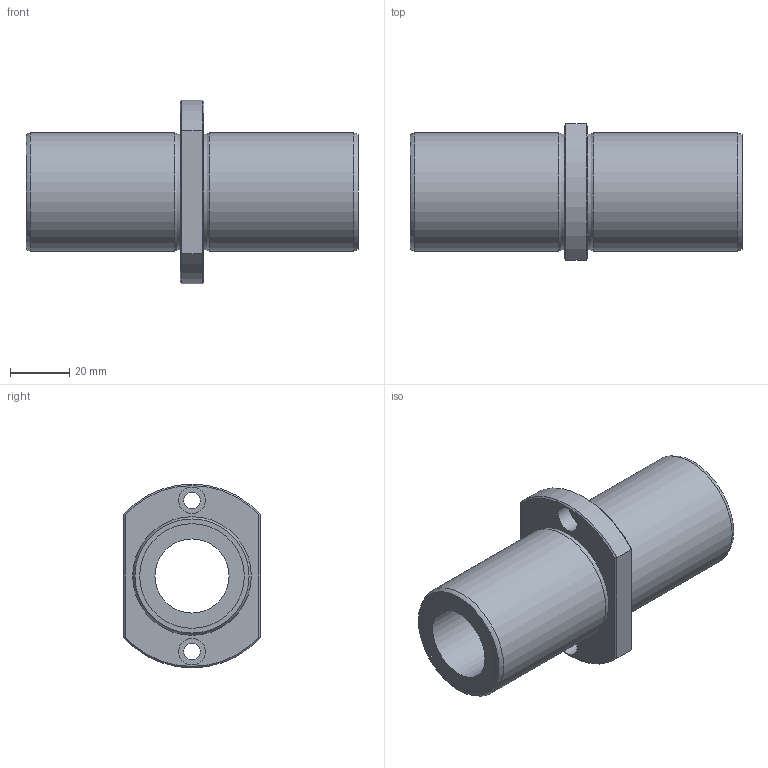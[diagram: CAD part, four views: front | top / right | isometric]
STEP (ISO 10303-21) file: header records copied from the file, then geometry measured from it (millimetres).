
FILE_DESCRIPTION((''),'2;1');
FILE_NAME('D:\製品 (図面)\カタログ用3D\リニアベアリング関連\STEP形式\LFDTC\LFDTC25.stp','2010-06-04T08:41:19',('Tsuchiya'),(''),'Autodesk Inventor 10','Autodesk Inventor 10','');
FILE_SCHEMA(('AUTOMOTIVE_DESIGN { 1 0 10303 214 1 1 1 1 }'));
Length unit declared in the file: millimetre
Products named in the file (1): LFDTC25
Bounding box: 112 x 46 x 62 mm (x, y, z)
Volume: 94978.7 mm3; surface area: 27685.2 mm2
Topology: 1 solids, 1 shells, 33 faces, 63 edges, 38 vertices
Faces by surface type: plane 14, cylinder 11, cone 4, torus 2, bspline 2
Full cylindrical faces by diameter (mm): 5.5 x2, 9 x2, 25 x1, 35.3 x2, 40 x2
Entity records: 925 total; most frequent: CARTESIAN_POINT 270, DIRECTION 136, ORIENTED_EDGE 100, AXIS2_PLACEMENT_3D 62, EDGE_LOOP 58, EDGE_CURVE 50, VERTEX_POINT 38, FACE_OUTER_BOUND 33
